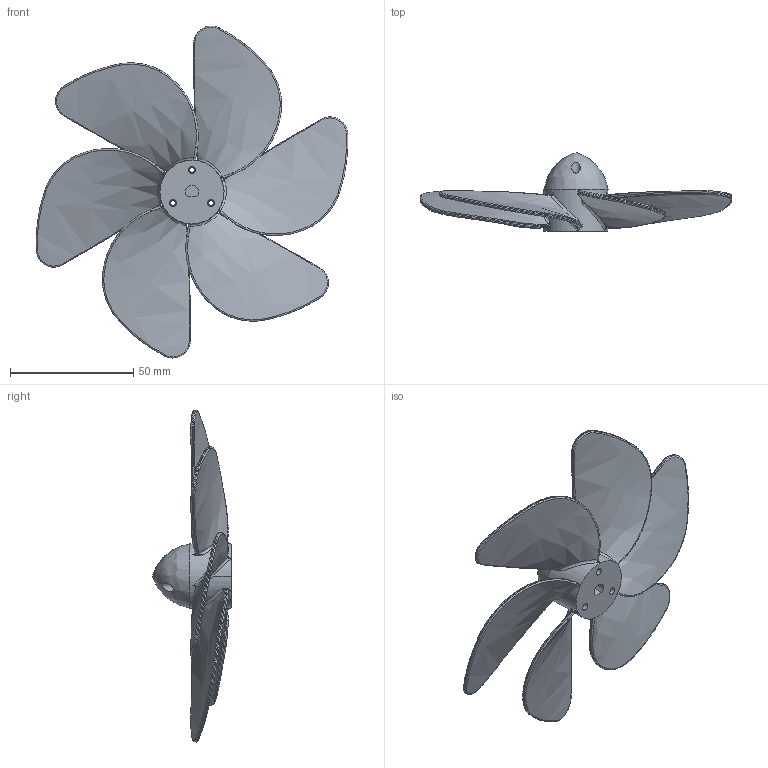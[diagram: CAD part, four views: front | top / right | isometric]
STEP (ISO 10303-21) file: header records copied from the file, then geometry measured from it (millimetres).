
FILE_DESCRIPTION(/* description */ (''),/* implementation_level */ '2;1');
FILE_NAME(/* name */ 'Assieme_ventola2.stp',/* time_stamp */ '2025-01-19T10:20:23+01:00',/* author */ ('R5800u'),/* organization */ (''),/* preprocessor_version */ 'ST-DEVELOPER v20',/* originating_system */ 'Autodesk Inventor 2025',/* authorisation */ '');
FILE_SCHEMA (('AUTOMOTIVE_DESIGN { 1 0 10303 214 3 1 1 }'));
Length unit declared in the file: millimetre
Products named in the file (3): Assieme_ventola2; fan2b; ogiva
Assembly tree (2 placements, depth 2):
  Assieme_ventola2
    fan2b
    ogiva
Bounding box: 126.58 x 32 x 134.85 mm (x, y, z)
Volume: 28516.7 mm3; surface area: 26800 mm2
Topology: 2 solids, 2 shells, 176 faces, 873 edges, 703 vertices
Faces by surface type: bspline 121, cylinder 42, plane 13
Full cylindrical faces by diameter (mm): 2 x3, 2.9 x3, 3.5 x3, 26 x1
Entity records: 26309 total; most frequent: CARTESIAN_POINT 20682, ORIENTED_EDGE 1744, EDGE_CURVE 872, B_SPLINE_CURVE_WITH_KNOTS 716, VERTEX_POINT 703, DIRECTION 375, EDGE_LOOP 193, FACE_OUTER_BOUND 176
